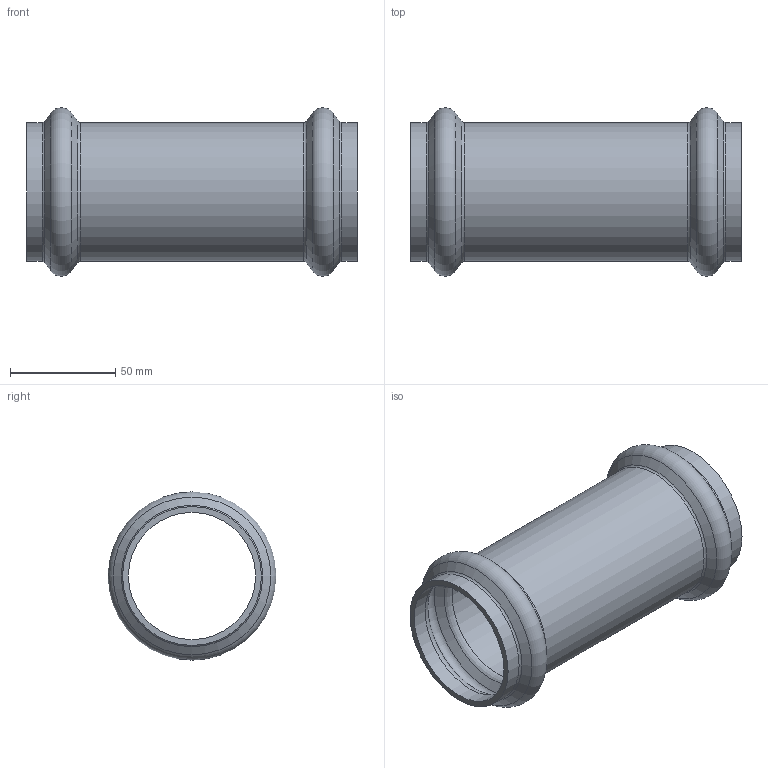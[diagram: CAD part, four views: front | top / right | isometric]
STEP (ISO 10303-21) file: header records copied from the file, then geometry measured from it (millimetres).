
FILE_DESCRIPTION(/* description */ ('VIC COUPLING STYLE P508 SLIP (P X P)','CAx-IF Rec.Pracs.---Representation and Presentation of Product Manufacturing Information (PMI)---4.0---2014-10-13'),/* implementation_level */ '2;1');
FILE_NAME(/* name */ 'C:\Users\kkamble\AppData\Roaming\Autodesk\ApplicationPlugins\Back Up\Victaulic_SS-Vic-Press-TP 316_Coupling Slip_Style P508 (VP)\Victaulic_SS-Vic-Press-TP 316_Coupling Slip_Style P508 (VP)_2 (50).stp',/* time_stamp */ '2020-08-14T11:54:31+05:00',/* author */ ('cgray'),/* organization */ ('Victaulic'),/* preprocessor_version */ 'ST-DEVELOPER v17.2',/* originating_system */ 'Autodesk Inventor 2019',/* authorisation */ '');
FILE_SCHEMA (('AP242_MANAGED_MODEL_BASED_3D_ENGINEERING_MIM_LF { 1 0 10303 442 1 1 4 }'));
Length unit declared in the file: inch
Products named in the file (1): P508-02.0
Bounding box: 156.97 x 79.89 x 79.89 mm (x, y, z)
Volume: 95817.8 mm3; surface area: 70315.1 mm2
Topology: 1 solids, 1 shells, 28 faces, 106 edges, 80 vertices
Faces by surface type: torus 12, cone 8, cylinder 6, plane 2
Full cylindrical faces by diameter (mm): 60.325 x3, 65.862 x3
Entity records: 1390 total; most frequent: DIRECTION 282, CARTESIAN_POINT 232, ORIENTED_EDGE 212, AXIS2_PLACEMENT_3D 134, EDGE_CURVE 106, CIRCLE 92, VERTEX_POINT 80, EDGE_LOOP 30
